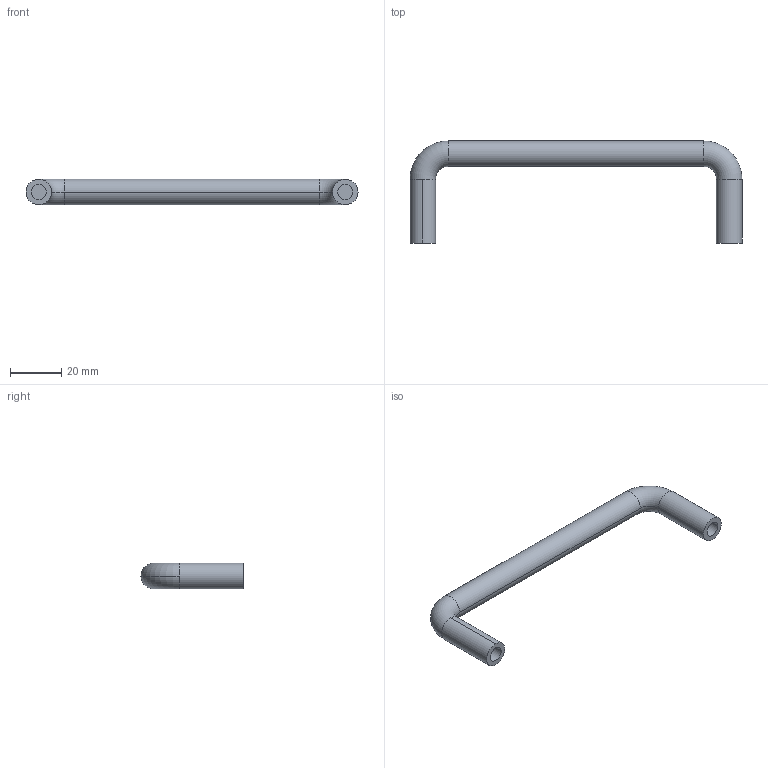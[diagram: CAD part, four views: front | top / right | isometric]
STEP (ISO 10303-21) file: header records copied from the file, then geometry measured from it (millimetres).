
FILE_DESCRIPTION (( 'STEP AP214' ), '1' );
FILE_NAME ('A84 KA-1251-9.STEP', '2012-02-22T01:59:28', ( '' ), ( '' ), 'SwSTEP 2.0', 'SolidWorks 2012', '' );
FILE_SCHEMA (( 'AUTOMOTIVE_DESIGN' ));
Length unit declared in the file: millimetre
Products named in the file (1): A84 KA-1251-9
Bounding box: 130 x 40 x 10 mm (x, y, z)
Volume: 13626.3 mm3; surface area: 6271.1 mm2
Topology: 1 solids, 1 shells, 18 faces, 36 edges, 22 vertices
Faces by surface type: cylinder 10, torus 4, plane 4
Entity records: 512 total; most frequent: DIRECTION 100, CARTESIAN_POINT 77, ORIENTED_EDGE 72, AXIS2_PLACEMENT_3D 45, EDGE_CURVE 36, CIRCLE 26, VERTEX_POINT 22, EDGE_LOOP 20
